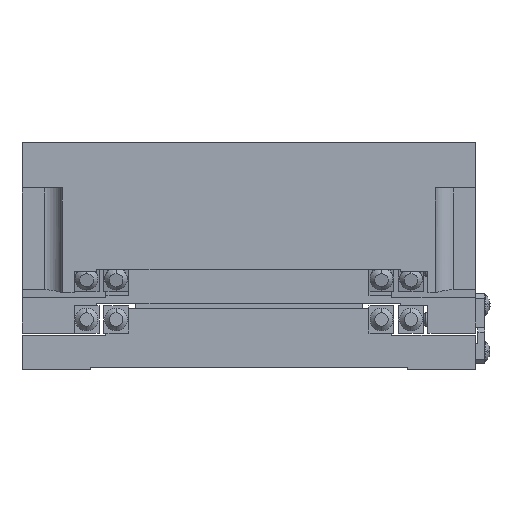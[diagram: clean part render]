
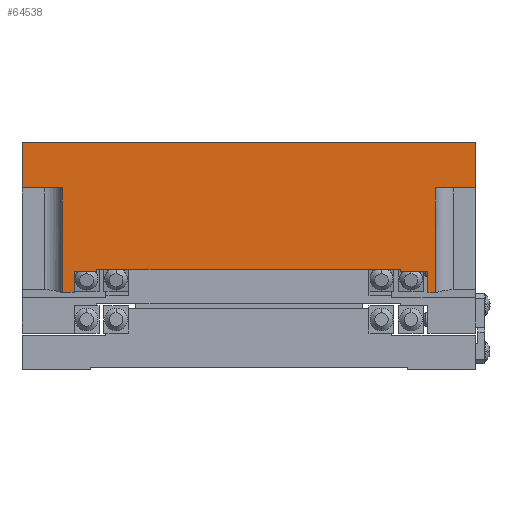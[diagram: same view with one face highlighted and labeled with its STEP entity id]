
A CAD part, left-side view. The second image highlights one B-rep face of the part: STEP entity #64538.
In plain terms, the highlighted planar face has unit normal (-1, 0, 0).
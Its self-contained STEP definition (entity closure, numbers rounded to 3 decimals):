
#27426 = ORIENTED_EDGE ( 'NONE', *, *, #61741, .F. ) ;
#27427 = ORIENTED_EDGE ( 'NONE', *, *, #61742, .F. ) ;
#27428 = ORIENTED_EDGE ( 'NONE', *, *, #61743, .F. ) ;
#27429 = ORIENTED_EDGE ( 'NONE', *, *, #61744, .T. ) ;
#27430 = ORIENTED_EDGE ( 'NONE', *, *, #61745, .T. ) ;
#27431 = ORIENTED_EDGE ( 'NONE', *, *, #61746, .F. ) ;
#27432 = ORIENTED_EDGE ( 'NONE', *, *, #61747, .T. ) ;
#27433 = ORIENTED_EDGE ( 'NONE', *, *, #61727, .F. ) ;
#27434 = ORIENTED_EDGE ( 'NONE', *, *, #61731, .T. ) ;
#27435 = ORIENTED_EDGE ( 'NONE', *, *, #61748, .F. ) ;
#27436 = ORIENTED_EDGE ( 'NONE', *, *, #61749, .T. ) ;
#27437 = ORIENTED_EDGE ( 'NONE', *, *, #61750, .T. ) ;
#27438 = ORIENTED_EDGE ( 'NONE', *, *, #61751, .T. ) ;
#27439 = ORIENTED_EDGE ( 'NONE', *, *, #61752, .T. ) ;
#27440 = ORIENTED_EDGE ( 'NONE', *, *, #61753, .T. ) ;
#27441 = ORIENTED_EDGE ( 'NONE', *, *, #61754, .T. ) ;
#37950 = LINE ( 'NONE', #37975, #38686 ) ;
#37960 = LINE ( 'NONE', #38000, #38683 ) ;
#37975 = CARTESIAN_POINT ( 'NONE',  ( -50., 0., -38.5 ) ) ;
#37979 = DIRECTION ( 'NONE',  ( 0., -1., 0. ) ) ;
#38000 = CARTESIAN_POINT ( 'NONE',  ( -50., -28.5, -38.5 ) ) ;
#38004 = DIRECTION ( 'NONE',  ( 0., 0., 1. ) ) ;
#38030 = LINE ( 'NONE', #38031, #38698 ) ;
#38031 = CARTESIAN_POINT ( 'NONE',  ( -50., -10., 50. ) ) ;
#38035 = LINE ( 'NONE', #38047, #38695 ) ;
#38039 = DIRECTION ( 'NONE',  ( 0., 0., -1. ) ) ;
#38040 = LINE ( 'NONE', #38041, #38700 ) ;
#38041 = CARTESIAN_POINT ( 'NONE',  ( -50., 0., 50. ) ) ;
#38042 = DIRECTION ( 'NONE',  ( 0., -1., 0. ) ) ;
#38043 = LINE ( 'NONE', #38045, #38701 ) ;
#38045 = CARTESIAN_POINT ( 'NONE',  ( -50., 0., 39.5 ) ) ;
#38046 = DIRECTION ( 'NONE',  ( 0., 0., 1. ) ) ;
#38047 = CARTESIAN_POINT ( 'NONE',  ( -50., 0., -50. ) ) ;
#38048 = DIRECTION ( 'NONE',  ( 0., -1., 0. ) ) ;
#38049 = LINE ( 'NONE', #38050, #38703 ) ;
#38050 = CARTESIAN_POINT ( 'NONE',  ( -50., -10., -50. ) ) ;
#38051 = DIRECTION ( 'NONE',  ( 0., 0., 1. ) ) ;
#38052 = LINE ( 'NONE', #38053, #38704 ) ;
#38053 = CARTESIAN_POINT ( 'NONE',  ( -50., -33., -41.1 ) ) ;
#38054 = DIRECTION ( 'NONE',  ( 0., 1., 0. ) ) ;
#38055 = LINE ( 'NONE', #38056, #38705 ) ;
#38056 = CARTESIAN_POINT ( 'NONE',  ( -50., -33., -50. ) ) ;
#38057 = DIRECTION ( 'NONE',  ( 0., 0., 1. ) ) ;
#38058 = LINE ( 'NONE', #38059, #38706 ) ;
#38059 = CARTESIAN_POINT ( 'NONE',  ( -50., 0., -33.5 ) ) ;
#38060 = DIRECTION ( 'NONE',  ( 0., -1., 0. ) ) ;
#38061 = LINE ( 'NONE', #38062, #38707 ) ;
#38062 = CARTESIAN_POINT ( 'NONE',  ( -50., -27.985, -33.5 ) ) ;
#38063 = DIRECTION ( 'NONE',  ( 0., 0., 1. ) ) ;
#38064 = LINE ( 'NONE', #38065, #38708 ) ;
#38065 = CARTESIAN_POINT ( 'NONE',  ( -50., 0., 33.5 ) ) ;
#38066 = DIRECTION ( 'NONE',  ( 0., -1., 0. ) ) ;
#38067 = LINE ( 'NONE', #38068, #38709 ) ;
#38068 = CARTESIAN_POINT ( 'NONE',  ( -50., -28.5, 33.5 ) ) ;
#38069 = DIRECTION ( 'NONE',  ( 0., 0., 1. ) ) ;
#38070 = LINE ( 'NONE', #38071, #38710 ) ;
#38071 = CARTESIAN_POINT ( 'NONE',  ( -50., 0., 39.5 ) ) ;
#38072 = DIRECTION ( 'NONE',  ( 0., -1., 0. ) ) ;
#38073 = LINE ( 'NONE', #38074, #38711 ) ;
#38074 = CARTESIAN_POINT ( 'NONE',  ( -50., -33., 39.5 ) ) ;
#38075 = DIRECTION ( 'NONE',  ( 0., 0., 1. ) ) ;
#38076 = LINE ( 'NONE', #38077, #38712 ) ;
#38077 = CARTESIAN_POINT ( 'NONE',  ( -50., -33., 41.1 ) ) ;
#38078 = DIRECTION ( 'NONE',  ( 0., 1., 0. ) ) ;
#38683 = VECTOR ( 'NONE', #38004, 1000. ) ;
#38686 = VECTOR ( 'NONE', #37979, 1000. ) ;
#38695 = VECTOR ( 'NONE', #38048, 1000. ) ;
#38698 = VECTOR ( 'NONE', #38039, 1000. ) ;
#38700 = VECTOR ( 'NONE', #38042, 1000. ) ;
#38701 = VECTOR ( 'NONE', #38046, 1000. ) ;
#38703 = VECTOR ( 'NONE', #38051, 1000. ) ;
#38704 = VECTOR ( 'NONE', #38054, 1000. ) ;
#38705 = VECTOR ( 'NONE', #38057, 1000. ) ;
#38706 = VECTOR ( 'NONE', #38060, 1000. ) ;
#38707 = VECTOR ( 'NONE', #38063, 1000. ) ;
#38708 = VECTOR ( 'NONE', #38066, 1000. ) ;
#38709 = VECTOR ( 'NONE', #38069, 1000. ) ;
#38710 = VECTOR ( 'NONE', #38072, 1000. ) ;
#38711 = VECTOR ( 'NONE', #38075, 1000. ) ;
#38712 = VECTOR ( 'NONE', #38078, 1000. ) ;
#40187 = AXIS2_PLACEMENT_3D ( 'NONE', #69226, #69240, #69241 ) ;
#43195 = CARTESIAN_POINT ( 'NONE',  ( -50., -10., 50. ) ) ;
#43243 = CARTESIAN_POINT ( 'NONE',  ( -50., -28.5, -38.5 ) ) ;
#43252 = CARTESIAN_POINT ( 'NONE',  ( -50., -33., -38.5 ) ) ;
#43255 = CARTESIAN_POINT ( 'NONE',  ( -50., -28.5, -33.5 ) ) ;
#43260 = CARTESIAN_POINT ( 'NONE',  ( -50., -27.985, -33.5 ) ) ;
#43269 = CARTESIAN_POINT ( 'NONE',  ( -50., -10., 41.1 ) ) ;
#43278 = CARTESIAN_POINT ( 'NONE',  ( -50., 0., 50. ) ) ;
#43280 = CARTESIAN_POINT ( 'NONE',  ( -50., 0., -50. ) ) ;
#43283 = CARTESIAN_POINT ( 'NONE',  ( -50., -33., -41.1 ) ) ;
#43289 = CARTESIAN_POINT ( 'NONE',  ( -50., -10., -50. ) ) ;
#43292 = CARTESIAN_POINT ( 'NONE',  ( -50., -10., -41.1 ) ) ;
#43300 = CARTESIAN_POINT ( 'NONE',  ( -50., -27.985, 33.5 ) ) ;
#43303 = CARTESIAN_POINT ( 'NONE',  ( -50., -28.5, 33.5 ) ) ;
#43306 = CARTESIAN_POINT ( 'NONE',  ( -50., -28.5, 39.5 ) ) ;
#43309 = CARTESIAN_POINT ( 'NONE',  ( -50., -33., 39.5 ) ) ;
#43312 = CARTESIAN_POINT ( 'NONE',  ( -50., -33., 41.1 ) ) ;
#56333 = EDGE_LOOP ( 'NONE', ( #27426, #27427, #27428, #27429, #27430, #27431, #27432, #27433, #27434, #27435, #27436, #27437, #27438, #27439, #27440, #27441 ) ) ;
#61727 = EDGE_CURVE ( 'NONE', #77787, #77792, #37950, .T. ) ;
#61731 = EDGE_CURVE ( 'NONE', #77787, #77794, #37960, .T. ) ;
#61741 = EDGE_CURVE ( 'NONE', #77759, #77802, #38030, .T. ) ;
#61742 = EDGE_CURVE ( 'NONE', #77806, #77759, #38040, .T. ) ;
#61743 = EDGE_CURVE ( 'NONE', #77808, #77806, #38043, .T. ) ;
#61744 = EDGE_CURVE ( 'NONE', #77808, #77812, #38035, .T. ) ;
#61745 = EDGE_CURVE ( 'NONE', #77812, #77814, #38049, .T. ) ;
#61746 = EDGE_CURVE ( 'NONE', #77810, #77814, #38052, .T. ) ;
#61747 = EDGE_CURVE ( 'NONE', #77810, #77792, #38055, .T. ) ;
#61748 = EDGE_CURVE ( 'NONE', #77796, #77794, #38058, .T. ) ;
#61749 = EDGE_CURVE ( 'NONE', #77796, #77819, #38061, .T. ) ;
#61750 = EDGE_CURVE ( 'NONE', #77819, #77820, #38064, .T. ) ;
#61751 = EDGE_CURVE ( 'NONE', #77820, #77822, #38067, .T. ) ;
#61752 = EDGE_CURVE ( 'NONE', #77822, #77824, #38070, .T. ) ;
#61753 = EDGE_CURVE ( 'NONE', #77824, #77826, #38073, .T. ) ;
#61754 = EDGE_CURVE ( 'NONE', #77826, #77802, #38076, .T. ) ;
#64538 = ADVANCED_FACE ( 'NONE', ( #69236 ), #69237, .T. ) ;
#69226 = CARTESIAN_POINT ( 'NONE',  ( -50., 0., 39.5 ) ) ;
#69236 = FACE_OUTER_BOUND ( 'NONE', #56333, .T. ) ;
#69237 = PLANE ( 'NONE',  #40187 ) ;
#69240 = DIRECTION ( 'NONE',  ( -1., 0., 0. ) ) ;
#69241 = DIRECTION ( 'NONE',  ( 0., 0., 1. ) ) ;
#77759 = VERTEX_POINT ( 'NONE', #43195 ) ;
#77787 = VERTEX_POINT ( 'NONE', #43243 ) ;
#77792 = VERTEX_POINT ( 'NONE', #43252 ) ;
#77794 = VERTEX_POINT ( 'NONE', #43255 ) ;
#77796 = VERTEX_POINT ( 'NONE', #43260 ) ;
#77802 = VERTEX_POINT ( 'NONE', #43269 ) ;
#77806 = VERTEX_POINT ( 'NONE', #43278 ) ;
#77808 = VERTEX_POINT ( 'NONE', #43280 ) ;
#77810 = VERTEX_POINT ( 'NONE', #43283 ) ;
#77812 = VERTEX_POINT ( 'NONE', #43289 ) ;
#77814 = VERTEX_POINT ( 'NONE', #43292 ) ;
#77819 = VERTEX_POINT ( 'NONE', #43300 ) ;
#77820 = VERTEX_POINT ( 'NONE', #43303 ) ;
#77822 = VERTEX_POINT ( 'NONE', #43306 ) ;
#77824 = VERTEX_POINT ( 'NONE', #43309 ) ;
#77826 = VERTEX_POINT ( 'NONE', #43312 ) ;
